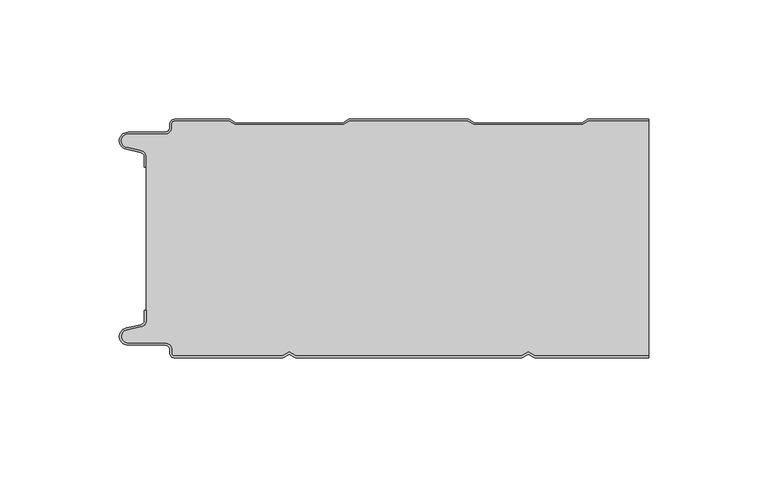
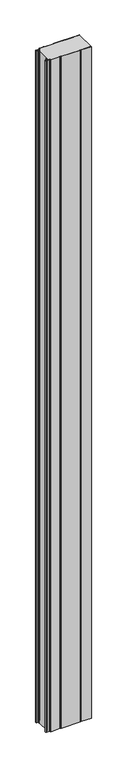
"""IFC4 building model written with IfcOpenShell, lengths in millimetres: plate geometry, PMH_Curtain-Panel_Perfil-Estándar : ACH_PMH_Panel-Acústico-Sectorización_100M."""

from ifc_helpers import new_model, si_unit, point, frame_2d, origin, origin_with_axes, place, context, project, spatial, polyline, circle_curve, trimmed, segment, composite_curve, outline, extrude, source, transform, mapped, element, save


def plate_0c309260(model_context):
    return source(origin(), model_context, "Body", "SweptSolid", [
        extrude(outline(composite_curve([segment(polyline([(-100.0, 15.878557), (-100.0, 20.0), (-99.2, 20.0), (-99.2, 15.878557)]), True, "CONTINUOUS"), segment(trimmed(circle_curve(frame_2d((-102.0, 15.878557)), 2.8), [point((-99.2, 15.878557))], [point((-101.370137, 13.1503208))], False, "CARTESIAN"), True, "CONTINUOUS"), segment(polyline([(-101.370137, 13.1503208), (-107.529863, 11.728236)]), True, "CONTINUOUS"), segment(trimmed(circle_curve(frame_2d((-106.9, 9.0)), 2.8), [point((-107.529863, 11.728236))], [point((-106.9, 6.2))], True, "CARTESIAN"), True, "CONTINUOUS"), segment(polyline([(-106.9, 6.2), (-91.4, 6.2)]), True, "CONTINUOUS"), segment(trimmed(circle_curve(frame_2d((-91.4, 3.4)), 2.8), [point((-91.4, 6.2))], [point((-88.6, 3.4))], False, "CARTESIAN"), True, "CONTINUOUS"), segment(polyline([(-88.6, 3.4), (-88.6, 2.0)]), True, "CONTINUOUS"), segment(trimmed(circle_curve(frame_2d((-87.4, 2.0)), 1.2), [point((-88.6, 2.0))], [point((-87.4, 0.8))], True, "CARTESIAN"), True, "CONTINUOUS"), segment(polyline([(-87.4, 0.8), (-42.3143588, 0.8), (-39.4, 2.482606), (-36.4856412, 0.8), (57.6856412, 0.8), (60.6, 2.482606), (63.5143588, 0.8), (111.0, 0.8), (111.0, 0.0), (63.2999995, 0.0), (60.6, 1.5588455), (57.9000005, 0.0), (-36.7000005, 0.0), (-39.4, 1.5588455), (-42.0999995, 0.0), (-87.4, 0.0)]), True, "CONTINUOUS"), segment(trimmed(circle_curve(frame_2d((-87.4, 2.0)), 2.0), [point((-87.4, 0.0))], [point((-89.4, 2.0))], False, "CARTESIAN"), True, "CONTINUOUS"), segment(polyline([(-89.4, 2.0), (-89.4, 3.4)]), True, "CONTINUOUS"), segment(trimmed(circle_curve(frame_2d((-91.4, 3.4)), 2.0), [point((-89.4, 3.4))], [point((-91.4, 5.4))], True, "CARTESIAN"), True, "CONTINUOUS"), segment(polyline([(-91.4, 5.4), (-106.9, 5.4)]), True, "CONTINUOUS"), segment(trimmed(circle_curve(frame_2d((-106.9, 9.0)), 3.6), [point((-106.9, 5.4))], [point((-107.7098239, 12.5077322))], False, "CARTESIAN"), True, "CONTINUOUS"), segment(polyline([(-107.7098239, 12.5077322), (-101.5500979, 13.929817)]), True, "CONTINUOUS"), segment(trimmed(circle_curve(frame_2d((-102.0, 15.878557)), 2.0), [point((-101.5500979, 13.929817))], [point((-100.0, 15.878557))], True, "CARTESIAN"), True, "CONTINUOUS")], self_intersect=False)), origin_with_axes(), (0.0, 0.0, 1.0), 3500.0),
        extrude(outline(composite_curve([segment(trimmed(circle_curve(frame_2d((-102.0, 84.121443)), 2.8), [point((-99.2, 84.121443))], [point((-101.370137, 86.8496792))], True, "CARTESIAN"), True, "CONTINUOUS"), segment(polyline([(-101.370137, 86.8496792), (-107.529863, 88.271764)]), True, "CONTINUOUS"), segment(trimmed(circle_curve(frame_2d((-106.9, 91.0)), 2.7999998), [point((-107.529863, 88.271764))], [point((-106.9, 93.7999998))], False, "CARTESIAN"), True, "CONTINUOUS"), segment(polyline([(-106.9, 93.7999998), (-91.4, 93.7999998)]), True, "CONTINUOUS"), segment(trimmed(circle_curve(frame_2d((-91.4, 96.5999998)), 2.8), [point((-91.4, 93.7999998))], [point((-88.6, 96.5999998))], True, "CARTESIAN"), True, "CONTINUOUS"), segment(polyline([(-88.6, 96.5999998), (-88.6, 98.0)]), True, "CONTINUOUS"), segment(trimmed(circle_curve(frame_2d((-87.4, 98.0)), 1.2), [point((-88.6, 98.0))], [point((-87.4, 99.2))], False, "CARTESIAN"), True, "CONTINUOUS"), segment(polyline([(-87.4, 99.2), (-64.6143592, 99.2), (-62.0162816, 97.7), (-16.7875654, 97.7), (-14.1894878, 99.2), (35.3856408, 99.2), (37.9837184, 97.7), (83.2124346, 97.7), (85.8105122, 99.2), (111.0, 99.2), (111.0, 0.8), (63.5143588, 0.8), (60.5999999, 2.482606), (57.6856411, 0.8), (-36.4856412, 0.8), (-39.4000001, 2.482606), (-42.3143589, 0.8), (-87.4000001, 0.8)]), True, "CONTINUOUS"), segment(trimmed(circle_curve(frame_2d((-87.4000001, 2.0)), 1.2), [point((-87.4000001, 0.8))], [point((-88.6000001, 2.0))], False, "CARTESIAN"), True, "CONTINUOUS"), segment(polyline([(-88.6000001, 2.0), (-88.6000001, 3.4)]), True, "CONTINUOUS"), segment(trimmed(circle_curve(frame_2d((-91.4000001, 3.4)), 2.8), [point((-88.6000001, 3.4))], [point((-91.4000001, 6.2))], True, "CARTESIAN"), True, "CONTINUOUS"), segment(polyline([(-91.4000001, 6.2), (-106.9, 6.2)]), True, "CONTINUOUS"), segment(trimmed(circle_curve(frame_2d((-106.9, 9.0)), 2.8), [point((-106.9, 6.2))], [point((-107.5298631, 11.7282362))], False, "CARTESIAN"), True, "CONTINUOUS"), segment(polyline([(-107.5298631, 11.7282362), (-101.370137, 13.1503212)]), True, "CONTINUOUS"), segment(trimmed(circle_curve(frame_2d((-102.0, 15.8785573)), 2.8), [point((-101.370137, 13.1503212))], [point((-99.2, 15.8785573))], True, "CARTESIAN"), True, "CONTINUOUS"), segment(polyline([(-99.2, 15.8785573), (-99.2, 84.121443)]), True, "CONTINUOUS")], self_intersect=False)), origin_with_axes(), (0.0, 0.0, 1.0), 3500.0),
        extrude(outline(composite_curve([segment(polyline([(-87.4, 100.0), (-64.3999999, 100.0), (-61.8019223, 98.5), (-17.0019247, 98.5), (-14.4038471, 100.0), (35.6000001, 100.0), (38.1980777, 98.5), (82.9980753, 98.5), (85.5961529, 100.0), (111.0, 100.0), (111.0, 99.2), (85.8105122, 99.2), (83.2124346, 97.7), (37.9837184, 97.7), (35.3856408, 99.2), (-14.1894878, 99.2), (-16.7875654, 97.7), (-62.0162816, 97.7), (-64.6143592, 99.2), (-87.4, 99.2)]), True, "CONTINUOUS"), segment(trimmed(circle_curve(frame_2d((-87.4, 98.0)), 1.2), [point((-87.4, 99.2))], [point((-88.6, 98.0))], True, "CARTESIAN"), True, "CONTINUOUS"), segment(polyline([(-88.6, 98.0), (-88.6, 96.6)]), True, "CONTINUOUS"), segment(trimmed(circle_curve(frame_2d((-91.4, 96.6)), 2.8), [point((-88.6, 96.6))], [point((-91.4, 93.8))], False, "CARTESIAN"), True, "CONTINUOUS"), segment(polyline([(-91.4, 93.8), (-106.9, 93.8)]), True, "CONTINUOUS"), segment(trimmed(circle_curve(frame_2d((-106.9, 91.0)), 2.8), [point((-106.9, 93.8))], [point((-107.529863, 88.2717638))], True, "CARTESIAN"), True, "CONTINUOUS"), segment(polyline([(-107.529863, 88.2717638), (-101.370137, 86.849679)]), True, "CONTINUOUS"), segment(trimmed(circle_curve(frame_2d((-102.0, 84.121443)), 2.8), [point((-101.370137, 86.849679))], [point((-99.2, 84.121443))], False, "CARTESIAN"), True, "CONTINUOUS"), segment(polyline([(-99.2, 84.121443), (-99.2, 80.0), (-100.0, 80.0), (-100.0, 84.121443)]), True, "CONTINUOUS"), segment(trimmed(circle_curve(frame_2d((-102.0, 84.121443)), 2.0), [point((-100.0, 84.121443))], [point((-101.5500978, 86.0701831))], True, "CARTESIAN"), True, "CONTINUOUS"), segment(polyline([(-101.5500978, 86.0701831), (-107.7098239, 87.492268)]), True, "CONTINUOUS"), segment(trimmed(circle_curve(frame_2d((-106.9, 91.0)), 3.6), [point((-107.7098239, 87.492268))], [point((-106.9, 94.6))], False, "CARTESIAN"), True, "CONTINUOUS"), segment(polyline([(-106.9, 94.6), (-91.4, 94.6)]), True, "CONTINUOUS"), segment(trimmed(circle_curve(frame_2d((-91.4, 96.6)), 2.0), [point((-91.4, 94.6))], [point((-89.4, 96.6))], True, "CARTESIAN"), True, "CONTINUOUS"), segment(polyline([(-89.4, 96.6), (-89.4, 98.0)]), True, "CONTINUOUS"), segment(trimmed(circle_curve(frame_2d((-87.4, 98.0)), 2.0), [point((-89.4, 98.0))], [point((-87.4, 100.0))], False, "CARTESIAN"), True, "CONTINUOUS")], self_intersect=False)), origin_with_axes(), (0.0, 0.0, 1.0), 3500.0),
    ])


if __name__ == "__main__":
    model = new_model("IFC4")
    model_context = context("Model", 3, world=origin())
    ifc_project = project(units=[si_unit("LENGTHUNIT", "METRE", prefix="MILLI")], contexts=[model_context])
    site = spatial("IfcSite", under=ifc_project)
    building = spatial("IfcBuilding", under=site)
    placement = place(None, origin())
    plate_shape = plate_0c309260(model_context)
    element("IfcPlate", 1, ObjectType="PMH_Curtain-Panel_Perfil-Estándar : ACH_PMH_Panel-Acústico-Sectorización_100M", at=placement, inside=building, context=model_context, shape_type="MappedRepresentation", body=[
        mapped(plate_shape, transform((0.0, 0.0, 0.0), x_axis=(1.0, 0.0, 0.0), y_axis=(0.0, 1.0, 0.0), z_axis=(0.0, 0.0, 1.0))),
    ])
    save(model, "model.ifc")
